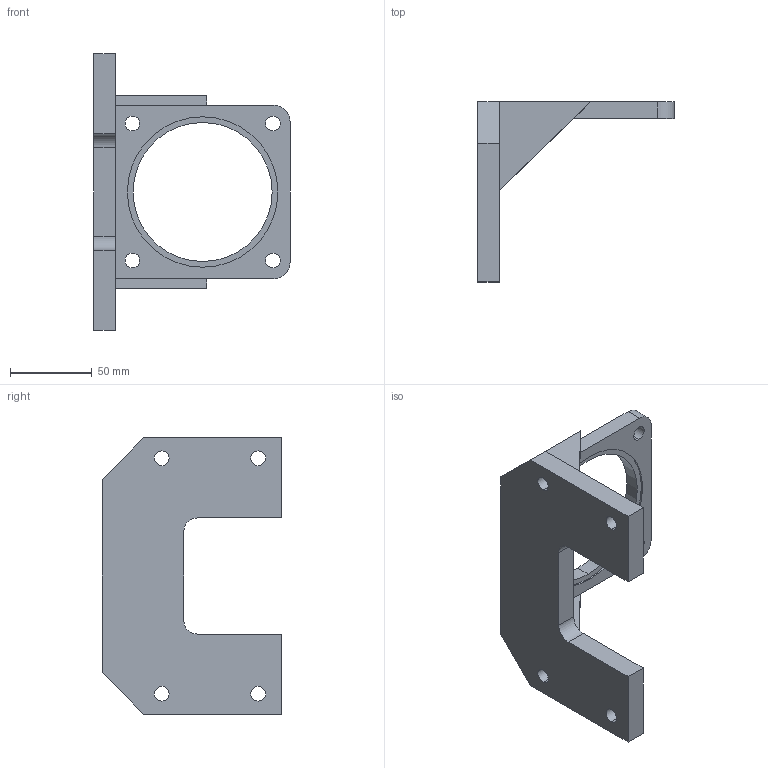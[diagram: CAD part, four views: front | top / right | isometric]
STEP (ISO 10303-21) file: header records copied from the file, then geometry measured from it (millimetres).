
FILE_DESCRIPTION (( 'STEP AP203' ), '1' );
FILE_NAME ('B6假蚾盓殤.STEP', '2018-12-10T06:13:37', ( 'china' ), ( 'china' ), 'SwSTEP 2.0', 'SolidWorks 2014', '' );
FILE_SCHEMA (( 'CONFIG_CONTROL_DESIGN' ));
Length unit declared in the file: millimetre
Products named in the file (1): B6假蚾盓殤
Bounding box: 120 x 110 x 169 mm (x, y, z)
Volume: 245784.1 mm3; surface area: 58303.6 mm2
Topology: 1 solids, 1 shells, 47 faces, 128 edges, 84 vertices
Faces by surface type: cylinder 24, plane 23
Entity records: 1611 total; most frequent: DIRECTION 272, CARTESIAN_POINT 260, ORIENTED_EDGE 256, EDGE_CURVE 128, AXIS2_PLACEMENT_3D 96, VERTEX_POINT 84, LINE 80, VECTOR 80
